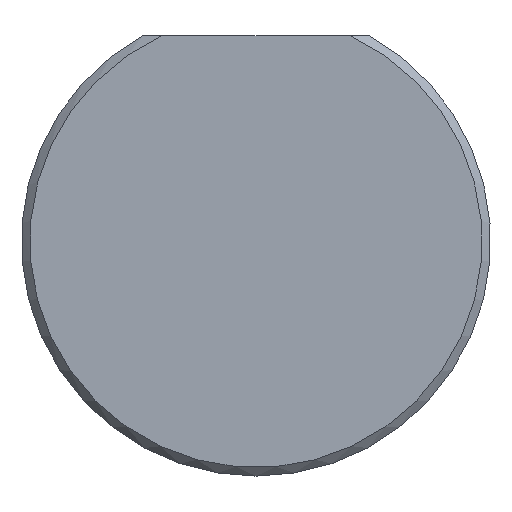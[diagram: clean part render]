
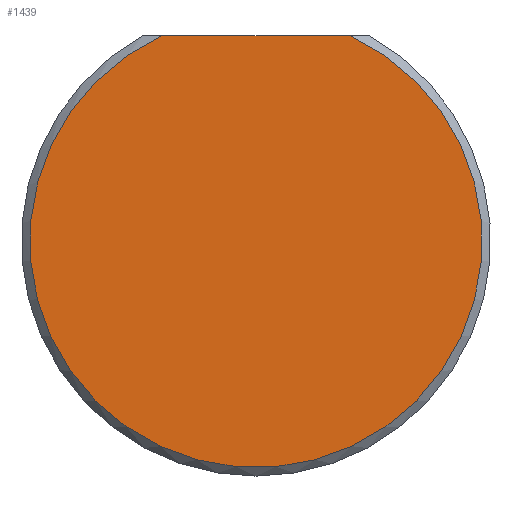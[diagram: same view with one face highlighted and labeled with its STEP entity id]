
A CAD part, front view. The second image highlights one B-rep face of the part: STEP entity #1439.
In plain terms, the highlighted planar face has unit normal (0, -1, 0).
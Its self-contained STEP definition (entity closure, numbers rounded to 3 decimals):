
#97 = CARTESIAN_POINT ( 'NONE',  ( 2.75, 0., 6. ) ) ;
#179 = DIRECTION ( 'NONE',  ( 0., 0., 1. ) ) ;
#215 = ORIENTED_EDGE ( 'NONE', *, *, #1156, .T. ) ;
#374 = ORIENTED_EDGE ( 'NONE', *, *, #1395, .T. ) ;
#640 = DIRECTION ( 'NONE',  ( -1., 0., 0. ) ) ;
#641 = LINE ( 'NONE', #1586, #1009 ) ;
#657 = DIRECTION ( 'NONE',  ( 0., 1., 0. ) ) ;
#659 = DIRECTION ( 'NONE',  ( 0., 0., 1. ) ) ;
#671 = FACE_OUTER_BOUND ( 'NONE', #1549, .T. ) ;
#1009 = VECTOR ( 'NONE', #640, 1000. ) ;
#1069 = VERTEX_POINT ( 'NONE', #1260 ) ;
#1156 = EDGE_CURVE ( 'NONE', #1069, #1693, #1593, .T. ) ;
#1260 = CARTESIAN_POINT ( 'NONE',  ( -2.75, 0., 6. ) ) ;
#1395 = EDGE_CURVE ( 'NONE', #1693, #1069, #641, .T. ) ;
#1436 = CARTESIAN_POINT ( 'NONE',  ( 0., 0., 0. ) ) ;
#1439 = ADVANCED_FACE ( 'NONE', ( #671 ), #1617, .F. ) ;
#1549 = EDGE_LOOP ( 'NONE', ( #374, #215 ) ) ;
#1586 = CARTESIAN_POINT ( 'NONE',  ( 0., 0., 6. ) ) ;
#1593 = CIRCLE ( 'NONE', #1976, 6.6 ) ;
#1617 = PLANE ( 'NONE',  #1662 ) ;
#1619 = DIRECTION ( 'NONE',  ( 0., -1., 0. ) ) ;
#1633 = CARTESIAN_POINT ( 'NONE',  ( 0., 0., 0. ) ) ;
#1662 = AXIS2_PLACEMENT_3D ( 'NONE', #1436, #657, #179 ) ;
#1693 = VERTEX_POINT ( 'NONE', #97 ) ;
#1976 = AXIS2_PLACEMENT_3D ( 'NONE', #1633, #1619, #659 ) ;
